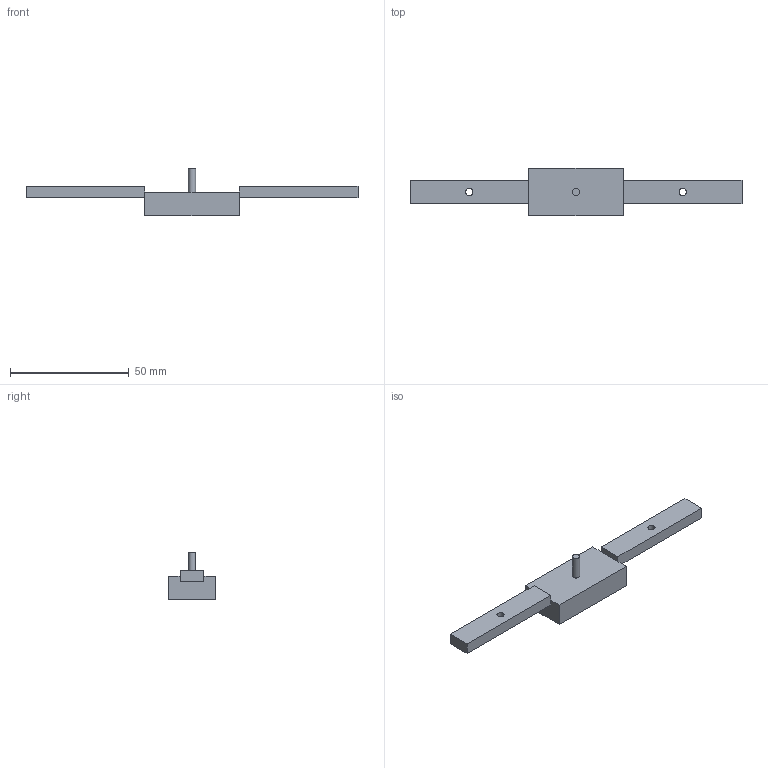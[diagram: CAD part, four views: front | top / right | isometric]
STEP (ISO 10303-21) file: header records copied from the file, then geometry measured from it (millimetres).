
FILE_DESCRIPTION(('Zoo Text-to-CAD'),'1');
FILE_NAME('Zoo Text-to-CAD model','2025-02-03T09:05:41',('Author'),('Zoo'),'Zoo Text-to-CAD','text-to-cad.zoo.dev','Unknown');
FILE_SCHEMA(('AUTOMOTIVE_DESIGN { 1 0 10303 214 1 1 1 1 }'));
Length unit declared in the file: millimetre
Products named in the file (1): Zoo Text-to-CAD
Bounding box: 140 x 20 x 20 mm (x, y, z)
Volume: 13000 mm3; surface area: 6060.2 mm2
Topology: 1 solids, 1 shells, 22 faces, 53 edges, 34 vertices
Faces by surface type: plane 19, cylinder 3
Full cylindrical faces by diameter (mm): 3 x3
Entity records: 1350 total; most frequent: CARTESIAN_POINT 240, DIRECTION 207, LINE 147, VECTOR 147, ORIENTED_EDGE 106, PCURVE 106, DEFINITIONAL_REPRESENTATION 106, EDGE_CURVE 53
